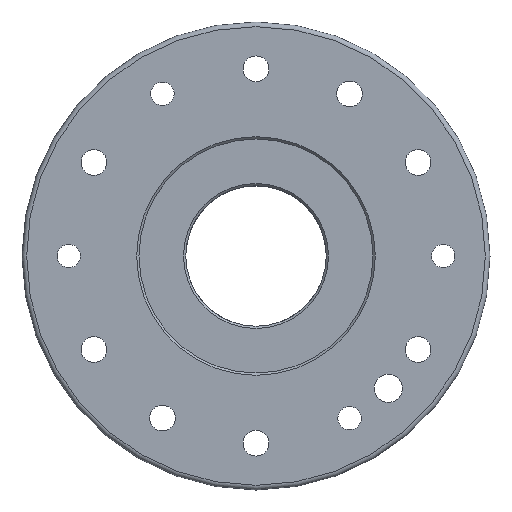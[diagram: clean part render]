
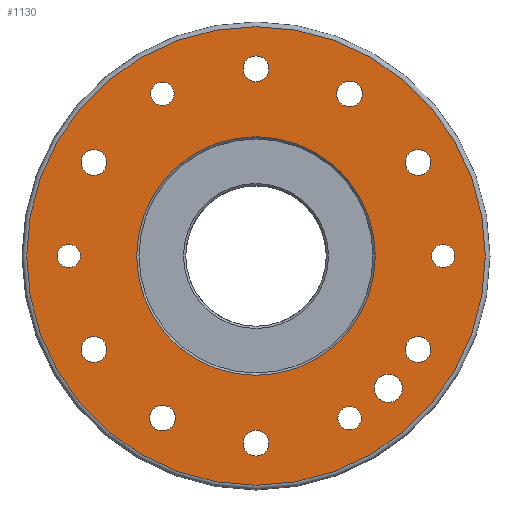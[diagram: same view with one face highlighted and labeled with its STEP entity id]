
A CAD part, left-side view. The second image highlights one B-rep face of the part: STEP entity #1130.
In plain terms, the highlighted planar face has unit normal (-1, 0, 0).
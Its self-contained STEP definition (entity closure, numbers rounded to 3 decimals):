
#195=FACE_BOUND('',#320,.T.);
#196=FACE_BOUND('',#321,.T.);
#197=FACE_BOUND('',#322,.T.);
#198=FACE_BOUND('',#323,.T.);
#199=FACE_BOUND('',#324,.T.);
#200=FACE_BOUND('',#325,.T.);
#201=FACE_BOUND('',#326,.T.);
#202=FACE_BOUND('',#327,.T.);
#203=FACE_BOUND('',#328,.T.);
#204=FACE_BOUND('',#329,.T.);
#205=FACE_BOUND('',#330,.T.);
#206=FACE_BOUND('',#331,.T.);
#207=FACE_BOUND('',#332,.T.);
#208=FACE_BOUND('',#333,.T.);
#238=FACE_OUTER_BOUND('',#319,.T.);
#319=EDGE_LOOP('',(#898,#899));
#320=EDGE_LOOP('',(#900));
#321=EDGE_LOOP('',(#901));
#322=EDGE_LOOP('',(#902));
#323=EDGE_LOOP('',(#903));
#324=EDGE_LOOP('',(#904));
#325=EDGE_LOOP('',(#905));
#326=EDGE_LOOP('',(#906));
#327=EDGE_LOOP('',(#907));
#328=EDGE_LOOP('',(#908));
#329=EDGE_LOOP('',(#909));
#330=EDGE_LOOP('',(#910));
#331=EDGE_LOOP('',(#911));
#332=EDGE_LOOP('',(#912));
#333=EDGE_LOOP('',(#913));
#370=CIRCLE('',#1189,5.5);
#376=CIRCLE('',#1198,5.5);
#382=CIRCLE('',#1207,5.5);
#388=CIRCLE('',#1216,5.5);
#394=CIRCLE('',#1225,5.5);
#400=CIRCLE('',#1234,5.5);
#406=CIRCLE('',#1243,5.5);
#412=CIRCLE('',#1252,5.5);
#430=CIRCLE('',#1274,98.);
#431=CIRCLE('',#1275,98.);
#432=CIRCLE('',#1277,51.);
#433=CIRCLE('',#1278,6.);
#434=CIRCLE('',#1279,5.);
#435=CIRCLE('',#1280,5.);
#436=CIRCLE('',#1281,5.);
#437=CIRCLE('',#1282,5.);
#466=VERTEX_POINT('',#1724);
#472=VERTEX_POINT('',#1741);
#478=VERTEX_POINT('',#1758);
#484=VERTEX_POINT('',#1775);
#490=VERTEX_POINT('',#1792);
#496=VERTEX_POINT('',#1809);
#502=VERTEX_POINT('',#1826);
#508=VERTEX_POINT('',#1843);
#524=VERTEX_POINT('',#1882);
#525=VERTEX_POINT('',#1884);
#526=VERTEX_POINT('',#1888);
#527=VERTEX_POINT('',#1890);
#528=VERTEX_POINT('',#1892);
#529=VERTEX_POINT('',#1894);
#530=VERTEX_POINT('',#1896);
#531=VERTEX_POINT('',#1898);
#586=EDGE_CURVE('',#466,#466,#370,.T.);
#594=EDGE_CURVE('',#472,#472,#376,.T.);
#602=EDGE_CURVE('',#478,#478,#382,.T.);
#610=EDGE_CURVE('',#484,#484,#388,.T.);
#618=EDGE_CURVE('',#490,#490,#394,.T.);
#626=EDGE_CURVE('',#496,#496,#400,.T.);
#634=EDGE_CURVE('',#502,#502,#406,.T.);
#642=EDGE_CURVE('',#508,#508,#412,.T.);
#662=EDGE_CURVE('',#524,#525,#430,.T.);
#663=EDGE_CURVE('',#525,#524,#431,.T.);
#664=EDGE_CURVE('',#526,#526,#432,.T.);
#665=EDGE_CURVE('',#527,#527,#433,.T.);
#666=EDGE_CURVE('',#528,#528,#434,.T.);
#667=EDGE_CURVE('',#529,#529,#435,.T.);
#668=EDGE_CURVE('',#530,#530,#436,.T.);
#669=EDGE_CURVE('',#531,#531,#437,.T.);
#898=ORIENTED_EDGE('',*,*,#663,.F.);
#899=ORIENTED_EDGE('',*,*,#662,.F.);
#900=ORIENTED_EDGE('',*,*,#586,.T.);
#901=ORIENTED_EDGE('',*,*,#594,.T.);
#902=ORIENTED_EDGE('',*,*,#602,.T.);
#903=ORIENTED_EDGE('',*,*,#610,.T.);
#904=ORIENTED_EDGE('',*,*,#618,.T.);
#905=ORIENTED_EDGE('',*,*,#626,.T.);
#906=ORIENTED_EDGE('',*,*,#634,.T.);
#907=ORIENTED_EDGE('',*,*,#642,.T.);
#908=ORIENTED_EDGE('',*,*,#664,.F.);
#909=ORIENTED_EDGE('',*,*,#665,.T.);
#910=ORIENTED_EDGE('',*,*,#666,.T.);
#911=ORIENTED_EDGE('',*,*,#667,.T.);
#912=ORIENTED_EDGE('',*,*,#668,.T.);
#913=ORIENTED_EDGE('',*,*,#669,.T.);
#1090=PLANE('',#1276);
#1130=ADVANCED_FACE('',(#238,#195,#196,#197,#198,#199,#200,#201,#202,#203,
#204,#205,#206,#207,#208),#1090,.T.);
#1189=AXIS2_PLACEMENT_3D('',#1725,#1359,#1360);
#1198=AXIS2_PLACEMENT_3D('',#1742,#1379,#1380);
#1207=AXIS2_PLACEMENT_3D('',#1759,#1399,#1400);
#1216=AXIS2_PLACEMENT_3D('',#1776,#1419,#1420);
#1225=AXIS2_PLACEMENT_3D('',#1793,#1439,#1440);
#1234=AXIS2_PLACEMENT_3D('',#1810,#1459,#1460);
#1243=AXIS2_PLACEMENT_3D('',#1827,#1479,#1480);
#1252=AXIS2_PLACEMENT_3D('',#1844,#1499,#1500);
#1274=AXIS2_PLACEMENT_3D('',#1885,#1545,#1546);
#1275=AXIS2_PLACEMENT_3D('',#1886,#1547,#1548);
#1276=AXIS2_PLACEMENT_3D('',#1887,#1549,#1550);
#1277=AXIS2_PLACEMENT_3D('',#1889,#1551,#1552);
#1278=AXIS2_PLACEMENT_3D('',#1891,#1553,#1554);
#1279=AXIS2_PLACEMENT_3D('',#1893,#1555,#1556);
#1280=AXIS2_PLACEMENT_3D('',#1895,#1557,#1558);
#1281=AXIS2_PLACEMENT_3D('',#1897,#1559,#1560);
#1282=AXIS2_PLACEMENT_3D('',#1899,#1561,#1562);
#1359=DIRECTION('center_axis',(1.,0.,0.));
#1360=DIRECTION('ref_axis',(0.,0.,-1.));
#1379=DIRECTION('center_axis',(1.,0.,0.));
#1380=DIRECTION('ref_axis',(0.,0.,-1.));
#1399=DIRECTION('center_axis',(1.,0.,0.));
#1400=DIRECTION('ref_axis',(0.,0.,-1.));
#1419=DIRECTION('center_axis',(1.,0.,0.));
#1420=DIRECTION('ref_axis',(0.,0.,-1.));
#1439=DIRECTION('center_axis',(1.,0.,0.));
#1440=DIRECTION('ref_axis',(0.,0.,-1.));
#1459=DIRECTION('center_axis',(1.,0.,0.));
#1460=DIRECTION('ref_axis',(0.,0.,-1.));
#1479=DIRECTION('center_axis',(1.,0.,0.));
#1480=DIRECTION('ref_axis',(0.,0.,-1.));
#1499=DIRECTION('center_axis',(1.,0.,0.));
#1500=DIRECTION('ref_axis',(0.,0.,-1.));
#1545=DIRECTION('center_axis',(1.,0.,0.));
#1546=DIRECTION('ref_axis',(0.,-1.,0.));
#1547=DIRECTION('center_axis',(1.,0.,0.));
#1548=DIRECTION('ref_axis',(0.,-1.,0.));
#1549=DIRECTION('center_axis',(-1.,0.,0.));
#1550=DIRECTION('ref_axis',(0.,0.,1.));
#1551=DIRECTION('center_axis',(-1.,0.,0.));
#1552=DIRECTION('ref_axis',(0.,-1.,0.));
#1553=DIRECTION('center_axis',(1.,0.,0.));
#1554=DIRECTION('ref_axis',(0.,0.,1.));
#1555=DIRECTION('center_axis',(1.,0.,0.));
#1556=DIRECTION('ref_axis',(0.,0.,1.));
#1557=DIRECTION('center_axis',(1.,0.,0.));
#1558=DIRECTION('ref_axis',(0.,0.,1.));
#1559=DIRECTION('center_axis',(1.,0.,0.));
#1560=DIRECTION('ref_axis',(0.,0.,1.));
#1561=DIRECTION('center_axis',(1.,0.,0.));
#1562=DIRECTION('ref_axis',(0.,0.,1.));
#1724=CARTESIAN_POINT('',(0.,69.282,-34.5));
#1725=CARTESIAN_POINT('Origin',(0.,69.282,-40.));
#1741=CARTESIAN_POINT('',(0.,0.,-74.5));
#1742=CARTESIAN_POINT('Origin',(0.,0.,-80.));
#1758=CARTESIAN_POINT('',(0.,-69.282,45.5));
#1759=CARTESIAN_POINT('Origin',(0.,-69.282,40.));
#1775=CARTESIAN_POINT('',(0.,0.,85.5));
#1776=CARTESIAN_POINT('Origin',(0.,0.,80.));
#1792=CARTESIAN_POINT('',(0.,-40.,74.782));
#1793=CARTESIAN_POINT('Origin',(0.,-40.,69.282));
#1809=CARTESIAN_POINT('',(0.,-69.282,-34.5));
#1810=CARTESIAN_POINT('Origin',(0.,-69.282,-40.));
#1826=CARTESIAN_POINT('',(0.,40.,-63.782));
#1827=CARTESIAN_POINT('Origin',(0.,40.,-69.282));
#1843=CARTESIAN_POINT('',(0.,69.282,45.5));
#1844=CARTESIAN_POINT('Origin',(0.,69.282,40.));
#1882=CARTESIAN_POINT('',(0.,0.,98.));
#1884=CARTESIAN_POINT('',(0.,98.,0.));
#1885=CARTESIAN_POINT('Origin',(0.,0.,0.));
#1886=CARTESIAN_POINT('Origin',(0.,0.,0.));
#1887=CARTESIAN_POINT('Origin',(0.,75.,0.));
#1888=CARTESIAN_POINT('',(0.,51.,0.));
#1889=CARTESIAN_POINT('Origin',(0.,0.,0.));
#1890=CARTESIAN_POINT('',(0.,-56.569,-62.569));
#1891=CARTESIAN_POINT('Origin',(0.,-56.569,-56.569));
#1892=CARTESIAN_POINT('',(0.,80.,-5.));
#1893=CARTESIAN_POINT('Origin',(0.,80.,0.));
#1894=CARTESIAN_POINT('',(0.,-40.,-74.282));
#1895=CARTESIAN_POINT('Origin',(0.,-40.,-69.282));
#1896=CARTESIAN_POINT('',(0.,40.,64.282));
#1897=CARTESIAN_POINT('Origin',(0.,40.,69.282));
#1898=CARTESIAN_POINT('',(0.,-80.,-5.));
#1899=CARTESIAN_POINT('Origin',(0.,-80.,0.));
